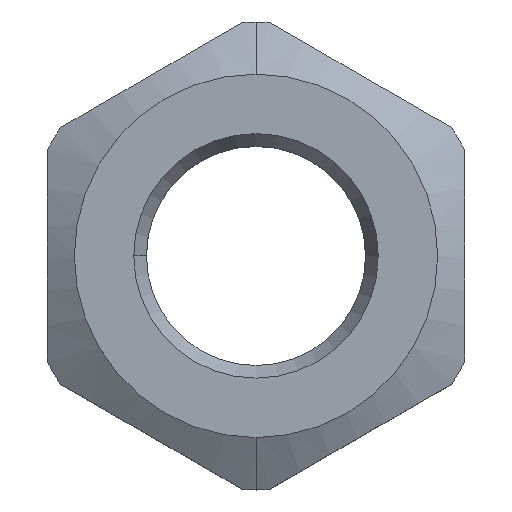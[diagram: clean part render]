
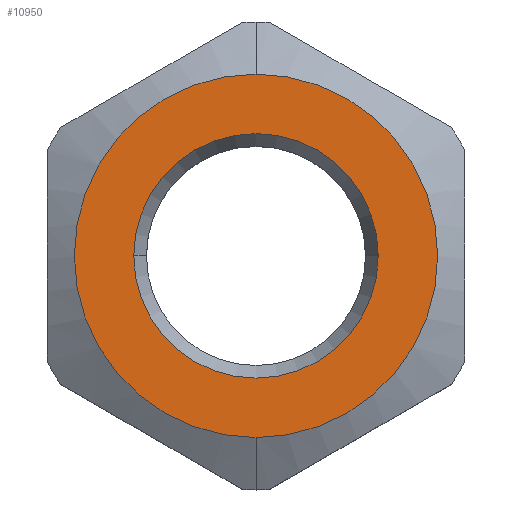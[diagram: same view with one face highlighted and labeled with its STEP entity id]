
A CAD part, top view. The second image highlights one B-rep face of the part: STEP entity #10950.
In plain terms, the highlighted planar face has unit normal (0, 0, 1).
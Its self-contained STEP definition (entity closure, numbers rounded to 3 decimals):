
#10600=CARTESIAN_POINT('',(-2.694,-16.75,32.165));
#10610=DIRECTION('',(0.,0.,1.));
#10620=DIRECTION('',(-1.,0.,0.));
#10630=AXIS2_PLACEMENT_3D('',#10600,#10610,#10620);
#10640=PLANE('',#10630);
#10650=CARTESIAN_POINT('',(-2.694,0.,
32.165));
#10660=DIRECTION('',(0.,0.,1.));
#10670=DIRECTION('',(1.,0.,0.));
#10680=AXIS2_PLACEMENT_3D('',#10650,#10660,#10670);
#10690=CIRCLE('',#10680,13.459);
#10700=CARTESIAN_POINT('',(10.764,0.,
32.165));
#10710=VERTEX_POINT('',#10700);
#10720=CARTESIAN_POINT('',(-16.153,0.,
32.165));
#10730=VERTEX_POINT('',#10720);
#10740=EDGE_CURVE('',#10710,#10730,#10690,.T.);
#10750=ORIENTED_EDGE('',*,*,#10740,.F.);
#10760=EDGE_CURVE('',#10730,#10710,#10690,.T.);
#10770=ORIENTED_EDGE('',*,*,#10760,.F.);
#10780=EDGE_LOOP('',(#10770,#10750));
#10790=FACE_BOUND('',#10780,.T.);
#10800=CARTESIAN_POINT('',(-2.694,0.,
32.165));
#10810=DIRECTION('',(0.,0.,-1.));
#10820=DIRECTION('',(0.,1.,0.));
#10830=AXIS2_PLACEMENT_3D('',#10800,#10810,#10820);
#10840=CIRCLE('',#10830,20.);
#10850=CARTESIAN_POINT('',(-2.694,20.,32.165));
#10860=VERTEX_POINT('',#10850);
#10870=CARTESIAN_POINT('',(-2.694,-20.,32.165));
#10880=VERTEX_POINT('',#10870);
#10890=EDGE_CURVE('',#10860,#10880,#10840,.T.);
#10900=ORIENTED_EDGE('',*,*,#10890,.F.);
#10910=EDGE_CURVE('',#10880,#10860,#10840,.T.);
#10920=ORIENTED_EDGE('',*,*,#10910,.F.);
#10930=EDGE_LOOP('',(#10920,#10900));
#10940=FACE_OUTER_BOUND('',#10930,.T.);
#10950=ADVANCED_FACE('',(#10790,#10940),#10640,.T.);
